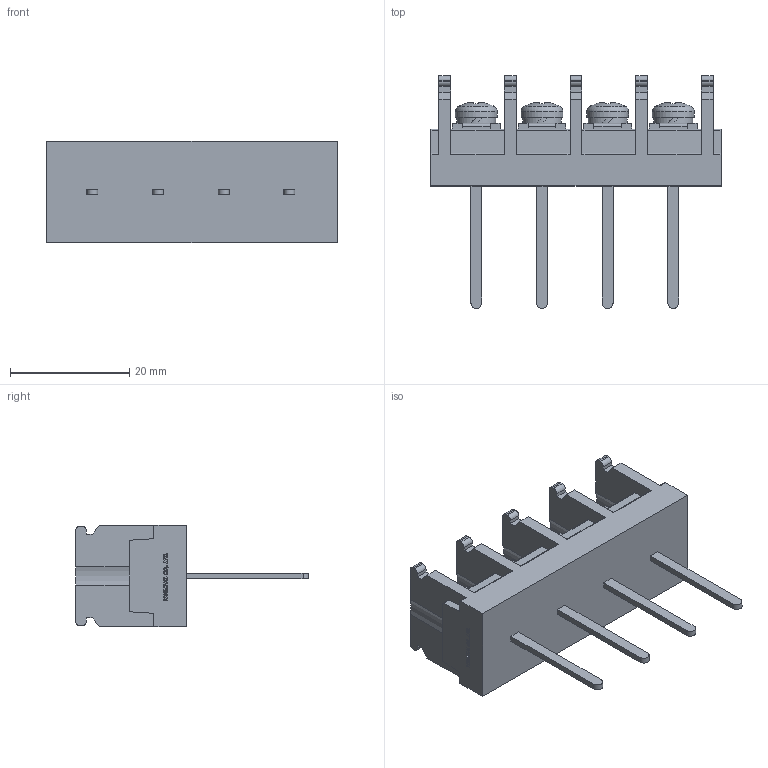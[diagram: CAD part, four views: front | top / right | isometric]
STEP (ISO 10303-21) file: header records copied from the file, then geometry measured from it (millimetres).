
FILE_DESCRIPTION(/* description */ ('Alibre Inc.'),/* implementation_level */ '2;1');
FILE_NAME(/* name */ 'export0',/* time_stamp */ '2015-10-20T07:44:36+09:00',/* author */ (''),/* organization */ (''),/* preprocessor_version */ 'ST-DEVELOPER v14',/* originating_system */ 'Alibre',/* authorisation */ '');
FILE_SCHEMA (('CONFIG_CONTROL_DESIGN'));
Length unit declared in the file: centimetre
Products named in the file (1): ID_1
Bounding box: 48.6 x 39 x 17 mm (x, y, z)
Volume: 9337.9 mm3; surface area: 5762.4 mm2
Topology: 1 solids, 1 shells, 708 faces, 1950 edges, 1296 vertices
Faces by surface type: plane 498, bspline 104, cylinder 78, cone 16, torus 8, sphere 4
Full cylindrical faces by diameter (mm): 4 x4, 6.5 x4, 7 x4
Entity records: 21885 total; most frequent: CARTESIAN_POINT 4959, ORIENTED_EDGE 3844, DIRECTION 2646, EDGE_CURVE 1922, VECTOR 1400, LINE 1400, VERTEX_POINT 1284, AXIS2_PLACEMENT_3D 867
